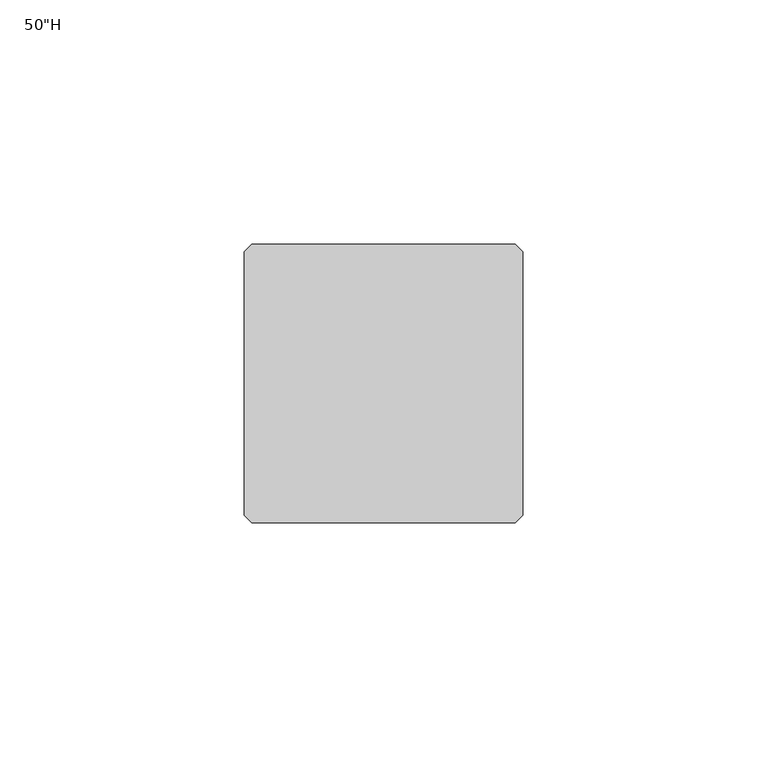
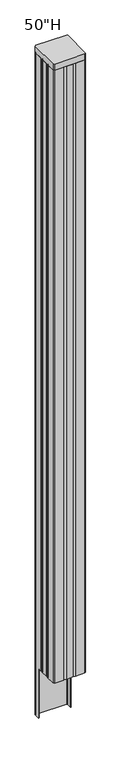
"""IFC4 building model written with IfcOpenShell, lengths in millimetres: furniture geometry."""

from ifc_helpers import new_model, si_unit, frame, origin, place, context, project, spatial, polyline, circle_curve, outline, extrude, source, transform, mapped, element, save
from ifc_brep_helpers import plane_surface, cylinder_surface, revolved_surface, advanced_brep


def furniture_296ab29a(model_context):
    return source(origin(), model_context, "Body", "SolidModel", [
        extrude(outline(polyline([(0.0, 1.5874985), (0.0, 55.5625015), (1.5874985, 57.15), (55.5625015, 57.15), (57.15, 55.5625015), (57.15, 1.5874985), (55.5625015, 0.0), (1.5874985, 0.0), (0.0, 1.5874985)])), frame((0.0, 0.0, 1247.775), z_axis=(0.0, 0.0, 1.0), x_axis=(1.0, 0.0, 0.0)), (0.0, 0.0, 1.0), 11.2522202),
        advanced_brep(
        [(0.0, 34.360617, 1247.775), (0.0, 22.789383, 1247.775), (0.0245942, 17.9224378, 1247.775), (0.0245942, 1.5629043, 1247.775), (1.5629043, 0.0245942, 1247.775), (17.731938, 0.0245942, 1247.775), (22.5988831, 0.0, 1247.775), (34.1701172, 0.0, 1247.775), (39.0370624, 0.0245942, 1247.775), (55.5870957, 0.0245942, 1247.775), (57.1254058, 1.5629043, 1247.775), (57.1254058, 17.9224378, 1247.775), (57.15, 22.789383, 1247.775), (57.15, 34.360617, 1247.775), (57.1254058, 39.2275622, 1247.775), (57.1254058, 55.5870957, 1247.775), (55.5870957, 57.1254058, 1247.775), (1.5629043, 57.1254058, 1247.775), (0.0245942, 55.5870957, 1247.775), (0.0245942, 39.2275622, 1247.775), (0.8183442, 39.5025989, 1247.775), (0.8183442, 55.2583137, 1247.775), (1.8916863, 56.3316558, 1247.775), (55.2583137, 56.3316558, 1247.775), (56.3316558, 55.2583137, 1247.775), (56.3316558, 39.5025989, 1247.775), (56.35625, 34.0813213, 1247.775), (56.35625, 23.0686787, 1247.775), (56.3316558, 17.6474011, 1247.775), (56.3316558, 1.8916863, 1247.775), (55.2583137, 0.8183442, 1247.775), (39.3120991, 0.8183442, 1247.775), (33.8908215, 0.79375, 1247.775), (22.8781788, 0.79375, 1247.775), (17.4569013, 0.8183442, 1247.775), (1.8916863, 0.8183442, 1247.775), (0.8183442, 1.8916863, 1247.775), (0.8183442, 17.6474011, 1247.775), (0.79375, 23.0686787, 1247.775), (0.79375, 34.0813213, 1247.775), (0.0245942, 55.5870957, 19.84375), (1.5629043, 57.1254058, 19.84375), (55.5870957, 57.1254058, 19.84375), (57.1254058, 55.5870957, 19.84375), (57.1254058, 46.0247979, 19.84375), (56.3316558, 46.0247979, 19.84375), (56.3316558, 55.2583137, 19.84375), (55.2583137, 56.3316558, 19.84375), (1.8916863, 56.3316558, 19.84375), (0.8183442, 55.2583137, 19.84375), (0.8183442, 46.0247979, 19.84375), (0.0245942, 46.0247979, 19.84375), (0.0, 34.360617, 111.8539829), (0.0, 22.789383, 111.8539829), (0.0245942, 17.9224378, 111.8539829), (0.0245942, 1.5629043, 111.8539829), (1.5629043, 0.0245942, 111.8539829), (17.731938, 0.0245942, 111.8539829), (22.5988831, 0.0, 111.8539829), (34.1701172, 0.0, 111.8539829), (39.0370624, 0.0245942, 111.8539829), (55.5870957, 0.0245942, 111.8539829), (57.1254058, 1.5629043, 111.8539829), (0.0245942, 46.0247979, 111.8539829), (0.0245942, 39.2275622, 111.8539829), (0.8183442, 39.5025989, 111.8539829), (0.8183442, 46.0247979, 111.8539829), (56.3316558, 1.8916863, 111.8539829), (55.2583137, 0.8183442, 111.8539829), (39.3120991, 0.8183442, 111.8539829), (33.8908215, 0.79375, 111.8539829), (22.8781788, 0.79375, 111.8539829), (17.4569013, 0.8183442, 111.8539829), (1.8916863, 0.8183442, 111.8539829), (0.8183442, 1.8916863, 111.8539829), (0.8183442, 17.6474011, 111.8539829), (0.79375, 23.0686787, 111.8539829), (0.79375, 34.0813213, 111.8539829), (56.3316558, 17.6474011, 111.8539829), (56.35625, 23.0686787, 111.8539829), (56.35625, 34.0813213, 111.8539829), (56.3316558, 39.5025989, 111.8539829), (56.3316558, 46.0247979, 111.8539829), (57.1254058, 46.0247979, 111.8539829), (57.1254058, 39.2275622, 111.8539829), (57.15, 34.360617, 111.8539829), (57.15, 22.789383, 111.8539829), (57.1254058, 17.9224378, 111.8539829)],
        [
            (0, 1),
            (1, 2, circle_curve(frame((-2.8354169, 20.34152, 1247.775), z_axis=(0.0, 0.0, -1.0), x_axis=(1.0, 0.0, 0.0)), 3.7458807)),
            (2, 3),
            (3, 4),
            (4, 5),
            (5, 6, circle_curve(frame((20.1510201, -2.8354169, 1247.775), z_axis=(0.0, 0.0, -1.0), x_axis=(1.0, 0.0, 0.0)), 3.7458807)),
            (6, 7),
            (7, 8, circle_curve(frame((36.6179802, -2.8354169, 1247.775), z_axis=(0.0, 0.0, -1.0), x_axis=(1.0, 0.0, 0.0)), 3.7458807)),
            (8, 9),
            (9, 10),
            (10, 11),
            (11, 12, circle_curve(frame((59.9854169, 20.34152, 1247.775), z_axis=(0.0, 0.0, -1.0), x_axis=(1.0, 0.0, 0.0)), 3.7458807)),
            (12, 13),
            (13, 14, circle_curve(frame((59.9854169, 36.80848, 1247.775), z_axis=(0.0, 0.0, -1.0), x_axis=(1.0, 0.0, 0.0)), 3.7458807)),
            (14, 15),
            (15, 16),
            (16, 17),
            (17, 18),
            (18, 19),
            (19, 0, circle_curve(frame((-2.8354169, 36.80848, 1247.775), z_axis=(0.0, 0.0, -1.0), x_axis=(1.0, 0.0, 0.0)), 3.7458807)),
            (20, 21),
            (21, 22),
            (22, 23),
            (23, 24),
            (24, 25),
            (25, 26, circle_curve(frame((59.9854169, 36.80848, 1247.775), z_axis=(0.0, 0.0, 1.0), x_axis=(1.0, 0.0, 0.0)), 4.5396307)),
            (26, 27),
            (27, 28, circle_curve(frame((59.9854169, 20.34152, 1247.775), z_axis=(0.0, 0.0, 1.0), x_axis=(1.0, 0.0, 0.0)), 4.5396307)),
            (28, 29),
            (29, 30),
            (30, 31),
            (31, 32, circle_curve(frame((36.6179802, -2.8354169, 1247.775), z_axis=(0.0, 0.0, 1.0), x_axis=(1.0, 0.0, 0.0)), 4.5396307)),
            (32, 33),
            (33, 34, circle_curve(frame((20.1510201, -2.8354169, 1247.775), z_axis=(0.0, 0.0, 1.0), x_axis=(1.0, 0.0, 0.0)), 4.5396307)),
            (34, 35),
            (35, 36),
            (36, 37),
            (37, 38, circle_curve(frame((-2.8354169, 20.34152, 1247.775), z_axis=(0.0, 0.0, 1.0), x_axis=(1.0, 0.0, 0.0)), 4.5396307)),
            (38, 39),
            (39, 20, circle_curve(frame((-2.8354169, 36.80848, 1247.775), z_axis=(0.0, 0.0, 1.0), x_axis=(1.0, 0.0, 0.0)), 4.5396307)),
            (40, 41),
            (41, 42),
            (42, 43),
            (43, 44),
            (44, 45),
            (45, 46),
            (46, 47),
            (47, 48),
            (48, 49),
            (49, 50),
            (50, 51),
            (51, 40),
            (0, 52),
            (52, 53),
            (53, 1),
            (53, 54, circle_curve(frame((-2.8354169, 20.34152, 111.8539829), z_axis=(0.0, 0.0, -1.0), x_axis=(1.0, 0.0, 0.0)), 3.7458807)),
            (54, 2),
            (54, 55),
            (55, 3),
            (55, 56),
            (56, 4),
            (56, 57),
            (57, 5),
            (57, 58, circle_curve(frame((20.1510201, -2.8354169, 111.8539829), z_axis=(0.0, 0.0, -1.0), x_axis=(1.0, 0.0, 0.0)), 3.7458807)),
            (58, 6),
            (58, 59),
            (59, 7),
            (59, 60, circle_curve(frame((36.6179802, -2.8354169, 111.8539829), z_axis=(0.0, 0.0, -1.0), x_axis=(1.0, 0.0, 0.0)), 3.7458807)),
            (60, 8),
            (60, 61),
            (61, 9),
            (61, 62),
            (62, 10),
            (15, 43),
            (42, 16),
            (41, 17),
            (40, 18),
            (51, 63),
            (63, 64),
            (64, 19),
            (64, 52, circle_curve(frame((-2.8354169, 36.80848, 111.8539829), z_axis=(0.0, 0.0, -1.0), x_axis=(1.0, 0.0, 0.0)), 3.7458807)),
            (20, 65),
            (65, 66),
            (66, 50),
            (49, 21),
            (48, 22),
            (47, 23),
            (46, 24),
            (29, 67),
            (67, 68),
            (68, 30),
            (68, 69),
            (69, 31),
            (69, 70, circle_curve(frame((36.6179802, -2.8354169, 111.8539829), z_axis=(0.0, 0.0, 1.0), x_axis=(1.0, 0.0, 0.0)), 4.5396307)),
            (70, 32),
            (70, 71),
            (71, 33),
            (71, 72, circle_curve(frame((20.1510201, -2.8354169, 111.8539829), z_axis=(0.0, 0.0, 1.0), x_axis=(1.0, 0.0, 0.0)), 4.5396307)),
            (72, 34),
            (72, 73),
            (73, 35),
            (73, 74),
            (74, 36),
            (74, 75),
            (75, 37),
            (75, 76, circle_curve(frame((-2.8354169, 20.34152, 111.8539829), z_axis=(0.0, 0.0, 1.0), x_axis=(1.0, 0.0, 0.0)), 4.5396307)),
            (76, 38),
            (76, 77),
            (77, 39),
            (77, 65, circle_curve(frame((-2.8354169, 36.80848, 111.8539829), z_axis=(0.0, 0.0, 1.0), x_axis=(1.0, 0.0, 0.0)), 4.5396307)),
            (63, 66),
            (67, 78),
            (78, 79, circle_curve(frame((59.9854169, 20.34152, 111.8539829), z_axis=(0.0, 0.0, -1.0), x_axis=(1.0, 0.0, 0.0)), 4.5396307)),
            (79, 80),
            (80, 81, circle_curve(frame((59.9854169, 36.80848, 111.8539829), z_axis=(0.0, 0.0, -1.0), x_axis=(1.0, 0.0, 0.0)), 4.5396307)),
            (81, 82),
            (82, 83),
            (83, 84),
            (84, 85, circle_curve(frame((59.9854169, 36.80848, 111.8539829), z_axis=(0.0, 0.0, 1.0), x_axis=(1.0, 0.0, 0.0)), 3.7458807)),
            (85, 86),
            (86, 87, circle_curve(frame((59.9854169, 20.34152, 111.8539829), z_axis=(0.0, 0.0, 1.0), x_axis=(1.0, 0.0, 0.0)), 3.7458807)),
            (87, 62),
            (82, 45),
            (44, 83),
            (87, 11),
            (86, 12),
            (85, 13),
            (84, 14),
            (81, 25),
            (80, 26),
            (79, 27),
            (78, 28),
        ],
        [
            plane_surface(frame((0.0, 23.406787, 1247.775), z_axis=(0.0, 0.0, 1.0), x_axis=(0.0, -1.0, 0.0))),
            plane_surface(frame((0.0, 23.406787, 19.84375), z_axis=(0.0, 0.0, -1.0), x_axis=(0.0, 1.0, 0.0))),
            plane_surface(frame((0.0, 34.360617, 1247.775), z_axis=(-1.0, 0.0, 0.0), x_axis=(0.0, 0.0, -1.0))),
            revolved_surface(polyline([(0.9104638, 20.34152, 111.8539829), (0.9104638, 20.34152, 1247.775)]), (-2.8354169, 20.34152, 19.84375), (0.0, 0.0, -1.0)),
            plane_surface(frame((0.0245942, 17.9224378, 1247.775), z_axis=(-1.0, 0.0, 0.0), x_axis=(0.0, 0.0, -1.0))),
            plane_surface(frame((0.0245942, 1.5629043, 1247.775), z_axis=(-0.707106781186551, -0.707106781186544, 0.0), x_axis=(0.0, 0.0, -1.0))),
            plane_surface(frame((1.5629043, 0.0245942, 1247.775), z_axis=(0.0, -1.0, 0.0), x_axis=(0.0, 0.0, -1.0))),
            revolved_surface(polyline([(23.8969008, -2.8354169, 111.8539829), (23.8969008, -2.8354169, 1247.775)]), (20.1510201, -2.8354169, 19.84375), (0.0, 0.0, -1.0)),
            plane_surface(frame((22.5988831, 0.0, 1247.775), z_axis=(0.0, -1.0, 0.0), x_axis=(0.0, 0.0, -1.0))),
            revolved_surface(polyline([(40.3638609, -2.8354169, 111.8539829), (40.3638609, -2.8354169, 1247.775)]), (36.6179802, -2.8354169, 19.84375), (0.0, 0.0, -1.0)),
            plane_surface(frame((39.0370624, 0.0245942, 1247.775), z_axis=(0.0, -1.0, 0.0), x_axis=(0.0, 0.0, -1.0))),
            plane_surface(frame((55.5870957, 0.0245942, 1247.775), z_axis=(0.7071067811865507, -0.7071067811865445, 0.0), x_axis=(0.0, 0.0, -1.0))),
            plane_surface(frame((57.1254058, 55.5870957, 1247.775), z_axis=(0.7071067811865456, 0.7071067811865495, 0.0), x_axis=(0.0, 0.0, -1.0))),
            plane_surface(frame((55.5870957, 57.1254058, 1247.775), z_axis=(0.0, 1.0, 0.0), x_axis=(0.0, 0.0, -1.0))),
            plane_surface(frame((1.5629043, 57.1254058, 1247.775), z_axis=(-0.7071067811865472, 0.7071067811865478, 0.0), x_axis=(0.0, 0.0, -1.0))),
            plane_surface(frame((0.0245942, 55.5870957, 1247.775), z_axis=(-1.0, 0.0, 0.0), x_axis=(0.0, 0.0, -1.0))),
            revolved_surface(polyline([(0.9104638, 36.80848, 111.8539829), (0.9104638, 36.80848, 1247.775)]), (-2.8354169, 36.80848, 19.84375), (0.0, 0.0, -1.0)),
            plane_surface(frame((0.8183442, 39.5025989, 1247.775), z_axis=(1.0, 0.0, 0.0), x_axis=(0.0, 0.0, -1.0))),
            plane_surface(frame((0.8183442, 55.2583137, 1247.775), z_axis=(0.707106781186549, -0.7071067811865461, 0.0), x_axis=(0.0, 0.0, -1.0))),
            plane_surface(frame((1.8916863, 56.3316558, 1247.775), z_axis=(0.0, -1.0, 0.0), x_axis=(0.0, 0.0, -1.0))),
            plane_surface(frame((55.2583137, 56.3316558, 1247.775), z_axis=(-0.7071067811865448, -0.7071067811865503, 0.0), x_axis=(0.0, 0.0, -1.0))),
            plane_surface(frame((56.3316558, 1.8916863, 1247.775), z_axis=(-0.7071067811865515, 0.7071067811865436, 0.0), x_axis=(0.0, 0.0, -1.0))),
            plane_surface(frame((55.2583137, 0.8183442, 1247.775), z_axis=(0.0, 1.0, 0.0), x_axis=(0.0, 0.0, -1.0))),
            cylinder_surface(frame((36.6179802, -2.8354169, 0.0), z_axis=(0.0, 0.0, 1.0), x_axis=(1.0, 0.0, 0.0)), 4.5396307),
            plane_surface(frame((33.8908215, 0.79375, 1247.775), z_axis=(0.0, 1.0, 0.0), x_axis=(0.0, 0.0, -1.0))),
            cylinder_surface(frame((20.1510201, -2.8354169, 0.0), z_axis=(0.0, 0.0, 1.0), x_axis=(1.0, 0.0, 0.0)), 4.5396307),
            plane_surface(frame((17.4569013, 0.8183442, 1247.775), z_axis=(0.0, 1.0, 0.0), x_axis=(0.0, 0.0, -1.0))),
            plane_surface(frame((1.8916863, 0.8183442, 1247.775), z_axis=(0.707106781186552, 0.7071067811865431, 0.0), x_axis=(0.0, 0.0, -1.0))),
            plane_surface(frame((0.8183442, 1.8916863, 1247.775), z_axis=(1.0, 0.0, 0.0), x_axis=(0.0, 0.0, -1.0))),
            cylinder_surface(frame((-2.8354169, 20.34152, 0.0), z_axis=(0.0, 0.0, 1.0), x_axis=(1.0, 0.0, 0.0)), 4.5396307),
            plane_surface(frame((0.79375, 23.0686787, 1247.775), z_axis=(1.0, 0.0, 0.0), x_axis=(0.0, 0.0, -1.0))),
            cylinder_surface(frame((-2.8354169, 36.80848, 0.0), z_axis=(0.0, 0.0, 1.0), x_axis=(1.0, 0.0, 0.0)), 4.5396307),
            plane_surface(frame((46.0247979, -12.7, 111.8539829), z_axis=(0.0, 0.0, -1.0), x_axis=(1.0, 0.0, 0.0))),
            plane_surface(frame((69.8254058, 46.0247979, 111.8539829), z_axis=(0.0, -1.0, 0.0), x_axis=(0.0, 0.0, -1.0))),
            plane_surface(frame((57.1254058, 1.5629043, 1247.775), z_axis=(1.0, 0.0, 0.0), x_axis=(0.0, 0.0, -1.0))),
            revolved_surface(polyline([(63.7312976, 20.34152, 111.8539829), (63.7312976, 20.34152, 1247.775)]), (59.9854169, 20.34152, 19.84375), (0.0, 0.0, -1.0)),
            plane_surface(frame((57.15, 22.789383, 1247.775), z_axis=(1.0, 0.0, 0.0), x_axis=(0.0, 0.0, -1.0))),
            revolved_surface(polyline([(63.7312976, 36.80848, 111.8539829), (63.7312976, 36.80848, 1247.775)]), (59.9854169, 36.80848, 19.84375), (0.0, 0.0, -1.0)),
            plane_surface(frame((57.1254058, 39.2275622, 1247.775), z_axis=(1.0, 0.0, 0.0), x_axis=(0.0, 0.0, -1.0))),
            plane_surface(frame((56.3316558, 55.2583137, 1247.775), z_axis=(-1.0, 0.0, 0.0), x_axis=(0.0, 0.0, -1.0))),
            cylinder_surface(frame((59.9854169, 36.80848, 0.0), z_axis=(0.0, 0.0, 1.0), x_axis=(1.0, 0.0, 0.0)), 4.5396307),
            plane_surface(frame((56.35625, 34.0813213, 1247.775), z_axis=(-1.0, 0.0, 0.0), x_axis=(0.0, 0.0, -1.0))),
            cylinder_surface(frame((59.9854169, 20.34152, 0.0), z_axis=(0.0, 0.0, 1.0), x_axis=(1.0, 0.0, 0.0)), 4.5396307),
            plane_surface(frame((56.3316558, 17.6474011, 1247.775), z_axis=(-1.0, 0.0, 0.0), x_axis=(0.0, 0.0, -1.0))),
        ],
        [
            (0, [[1, 2, 3, 4, 5, 6, 7, 8, 9, 10, 11, 12, 13, 14, 15, 16, 17, 18, 19, 20], [21, 22, 23, 24, 25, 26, 27, 28, 29, 30, 31, 32, 33, 34, 35, 36, 37, 38, 39, 40]]),
            (1, [[41, 42, 43, 44, 45, 46, 47, 48, 49, 50, 51, 52]]),
            (2, [[-1, 53, 54, 55]]),
            (3, [[-2, -55, 56, 57]]),
            (4, [[-3, -57, 58, 59]]),
            (5, [[-4, -59, 60, 61]]),
            (6, [[-5, -61, 62, 63]]),
            (7, [[-6, -63, 64, 65]]),
            (8, [[-7, -65, 66, 67]]),
            (9, [[-8, -67, 68, 69]]),
            (10, [[-9, -69, 70, 71]]),
            (11, [[-10, -71, 72, 73]]),
            (12, [[-16, 74, -43, 75]]),
            (13, [[-17, -75, -42, 76]]),
            (14, [[-18, -76, -41, 77]]),
            (15, [[-19, -77, -52, 78, 79, 80]]),
            (16, [[-20, -80, 81, -53]]),
            (17, [[-21, 82, 83, 84, -50, 85]]),
            (18, [[-22, -85, -49, 86]]),
            (19, [[-23, -86, -48, 87]]),
            (20, [[-24, -87, -47, 88]]),
            (21, [[-30, 89, 90, 91]]),
            (22, [[-31, -91, 92, 93]]),
            (23, [[-32, -93, 94, 95]]),
            (24, [[-33, -95, 96, 97]]),
            (25, [[-34, -97, 98, 99]]),
            (26, [[-35, -99, 100, 101]]),
            (27, [[-36, -101, 102, 103]]),
            (28, [[-37, -103, 104, 105]]),
            (29, [[-38, -105, 106, 107]]),
            (30, [[-39, -107, 108, 109]]),
            (31, [[-40, -109, 110, -82]]),
            (32, [[111, -83, -110, -108, -106, -104, -102, -100, -98, -96, -94, -92, -90, 112, 113, 114, 115, 116, 117, 118, 119, 120, 121, 122, -72, -70, -68, -66, -64, -62, -60, -58, -56, -54, -81, -79]]),
            (33, [[-111, -78, -51, -84]]),
            (33, [[-117, 123, -45, 124]]),
            (34, [[-11, -73, -122, 125]]),
            (35, [[-12, -125, -121, 126]]),
            (36, [[-13, -126, -120, 127]]),
            (37, [[-14, -127, -119, 128]]),
            (38, [[-15, -128, -118, -124, -44, -74]]),
            (39, [[-25, -88, -46, -123, -116, 129]]),
            (40, [[-26, -129, -115, 130]]),
            (41, [[-27, -130, -114, 131]]),
            (42, [[-28, -131, -113, 132]]),
            (43, [[-29, -132, -112, -89]]),
        ],
    ),
    ])


if __name__ == "__main__":
    model = new_model("IFC4")
    model_context = context("Model", 3, world=origin())
    ifc_project = project(units=[si_unit("LENGTHUNIT", "METRE", prefix="MILLI")], contexts=[model_context])
    site = spatial("IfcSite", under=ifc_project)
    building = spatial("IfcBuilding", under=site)
    placement = place(None, origin())
    furniture_shape = furniture_296ab29a(model_context)
    element("IfcFurniture", 1, ObjectType="HON - Accelerate - Connector - T Post : 50\"H", at=placement, inside=building, context=model_context, shape_type="MappedRepresentation", body=[
        mapped(furniture_shape, transform((0.0, 0.0, 0.0), x_axis=(1.0, 0.0, 0.0), y_axis=(0.0, 1.0, 0.0), z_axis=(0.0, 0.0, 1.0))),
    ])
    save(model, "model.ifc")
